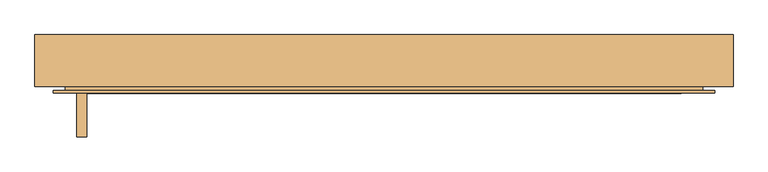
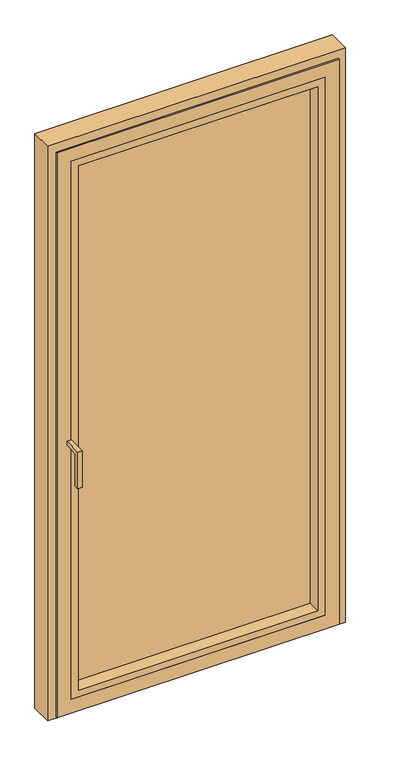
"""IFC4 building model written with IfcOpenShell, lengths in millimetres: door geometry, Reynaers_Masterline 8_Window Door_Inward Opening_Single Vent : Reynaers_Masterline 8_Window Door_Inward Opening_Single Vent."""

from ifc_helpers import new_model, si_unit, frame, origin, place, context, project, spatial, polyline, outline, extrude, faceted_brep, source, transform, mapped, element, save


def door_6dbdc447(model_context):
    return source(origin(), model_context, "Body", "SolidModel", [
        extrude(outline(polyline([(-7.0, 1001.0), (-57.0, 1001.0), (-57.0, 881.0), (-72.0, 881.0), (-72.0, 1016.0), (-7.0, 1016.0), (-7.0, 1001.0)])), frame((-458.0, 0.0, 0.0), z_axis=(1.0, 0.0, 0.0), x_axis=(0.0, 1.0, 0.0)), (0.0, 0.0, 1.0), 15.0),
        extrude(outline(polyline([(460.0, 80.0), (460.0, 73.3161312), (-460.0, 73.3161312), (-460.0, 80.0), (460.0, 80.0)])), frame((0.0, 0.0, 9.0), z_axis=(0.0, 0.0, 1.0), x_axis=(1.0, 0.0, 0.0)), (0.0, 0.0, 1.0), 40.0),
        extrude(outline(polyline([(460.0, 66.7987266), (460.0, 57.7184295), (-460.0, 57.7184295), (-460.0, 66.7987266), (460.0, 66.7987266)])), frame((0.0, 0.0, 1.0), z_axis=(0.0, 0.0, 1.0), x_axis=(1.0, 0.0, 0.0)), (0.0, 0.0, 1.0), 26.0),
        extrude(outline(polyline([(460.0, 24.9284889), (460.0, 0.9284886), (-460.0, 0.9284886), (-460.0, 24.9284889), (460.0, 24.9284889)])), frame((0.0, 0.0, 5.3954515), z_axis=(0.0, 0.0, 1.0), x_axis=(1.0, 0.0, 0.0)), (0.0, 0.0, 1.0), 21.6045485),
        faceted_brep([(453.0, 70.0, 49.0), (453.0, 80.0, 49.0), (453.0, 80.0, 2053.0), (453.0, 70.0, 2053.0), (416.0, 80.0, 86.0), (416.0, 72.0, 86.0), (416.0, 72.0, 2016.0), (416.0, 80.0, 2016.0), (-453.0, 80.0, 2053.0), (-453.0, 70.0, 2053.0), (-416.0, 72.0, 2016.0), (-416.0, 80.0, 2016.0), (-453.0, 80.0, 49.0), (-453.0, 70.0, 49.0), (-416.0, 72.0, 86.0), (-416.0, 80.0, 86.0), (493.0, -7.0, 2093.0), (-493.0, -7.0, 2093.0), (-493.0, -7.0, 9.0), (493.0, -7.0, 9.0), (443.0, -7.0, 59.0), (-443.0, -7.0, 59.0), (-443.0, -7.0, 2043.0), (443.0, -7.0, 2043.0), (443.0, 72.0, 2043.0), (-443.0, 72.0, 2043.0), (-443.0, 72.0, 59.0), (443.0, 72.0, 59.0), (475.0, -3.0, 2075.0), (475.0, 70.0, 2075.0), (-475.0, 70.0, 2075.0), (-475.0, -3.0, 2075.0), (493.0, -3.0, 2093.0), (-493.0, -3.0, 2093.0), (-475.0, 70.0, 27.0), (-475.0, -3.0, 27.0), (-493.0, -3.0, 9.0), (475.0, 70.0, 27.0), (475.0, -3.0, 27.0), (493.0, -3.0, 9.0)], [[[0, 1, 2, 3]], [[4, 5, 6, 7]], [[3, 2, 8, 9]], [[7, 6, 10, 11]], [[9, 8, 12, 13]], [[11, 10, 14, 15]], [[1, 12, 8, 2], [7, 11, 15, 4]], [[13, 12, 1, 0]], [[16, 17, 18, 19], [20, 21, 22, 23]], [[15, 14, 5, 4]], [[24, 23, 22, 25]], [[25, 22, 21, 26]], [[26, 21, 20, 27]], [[27, 20, 23, 24]], [[25, 26, 27, 24], [6, 5, 14, 10]], [[28, 29, 30, 31]], [[16, 32, 33, 17]], [[31, 30, 34, 35]], [[17, 33, 36, 18]], [[35, 34, 37, 38]], [[18, 36, 39, 19]], [[29, 37, 34, 30], [9, 13, 0, 3]], [[38, 37, 29, 28]], [[32, 39, 36, 33], [31, 35, 38, 28]], [[19, 39, 32, 16]]]),
        faceted_brep([(460.0, 80.0, 1.0), (520.0, 80.0, 1.0), (520.0, 3.0, 1.0), (487.0, 3.0, 1.0), (487.0, 76.0, 1.0), (460.0, 76.0, 1.0), (460.0, 80.0, 2060.0), (-460.0, 80.0, 2060.0), (-460.0, 80.0, 1.0), (-520.0, 80.0, 1.0), (-520.0, 80.0, 2120.0), (520.0, 80.0, 2120.0), (520.0, 3.0, 2120.0), (-520.0, 3.0, 2120.0), (-520.0, 3.0, 1.0), (-487.0, 3.0, 1.0), (-487.0, 3.0, 2087.0), (487.0, 3.0, 2087.0), (460.0, 76.0, 2060.0), (-460.0, 76.0, 2060.0), (-460.0, 76.0, 1.0), (-487.0, 76.0, 1.0), (487.0, 76.0, 2087.0), (-487.0, 76.0, 2087.0)], [[[0, 1, 2, 3, 4, 5]], [[1, 0, 6, 7, 8, 9, 10, 11]], [[2, 1, 11, 12]], [[3, 2, 12, 13, 14, 15, 16, 17]], [[0, 5, 18, 6]], [[12, 11, 10, 13]], [[6, 18, 19, 7]], [[8, 20, 21, 15, 14, 9]], [[13, 10, 9, 14]], [[7, 19, 20, 8]], [[22, 17, 16, 23]], [[23, 16, 15, 21]], [[4, 3, 17, 22]], [[5, 4, 22, 23, 21, 20, 19, 18]]]),
        extrude(outline(polyline([(2043.0, -443.0), (59.0, -443.0), (59.0, 443.0), (2043.0, 443.0), (2043.0, -443.0)]), holes=[polyline([(2018.0, 418.0), (84.0, 418.0), (84.0, -418.0), (2018.0, -418.0), (2018.0, 418.0)])]), frame((0.0, -7.0, 0.0), z_axis=(0.0, 1.0, 0.0), x_axis=(0.0, 0.0, 1.0)), (0.0, 0.0, 1.0), 46.0),
        extrude(outline(polyline([(435.0, 45.0), (-435.0, 45.0), (-435.0, 72.0), (435.0, 72.0), (435.0, 45.0)])), frame((0.0, 0.0, 67.0), z_axis=(0.0, 0.0, 1.0), x_axis=(1.0, 0.0, 0.0)), (0.0, 0.0, 1.0), 1968.0),
    ])


if __name__ == "__main__":
    model = new_model("IFC4")
    model_context = context("Model", 3, world=origin())
    ifc_project = project(units=[si_unit("LENGTHUNIT", "METRE", prefix="MILLI")], contexts=[model_context])
    site = spatial("IfcSite", under=ifc_project)
    building = spatial("IfcBuilding", under=site)
    placement = place(None, origin())
    door_shape = door_6dbdc447(model_context)
    element("IfcDoor", 1, ObjectType="Reynaers_Masterline 8_Window Door_Inward Opening_Single Vent : Reynaers_Masterline 8_Window Door_Inward Opening_Single Vent", at=placement, inside=building, context=model_context, shape_type="MappedRepresentation", body=[
        mapped(door_shape, transform((0.0, 0.0, 0.0), x_axis=(1.0, 0.0, 0.0), y_axis=(0.0, 1.0, 0.0), z_axis=(0.0, 0.0, 1.0))),
    ])
    save(model, "model.ifc")
